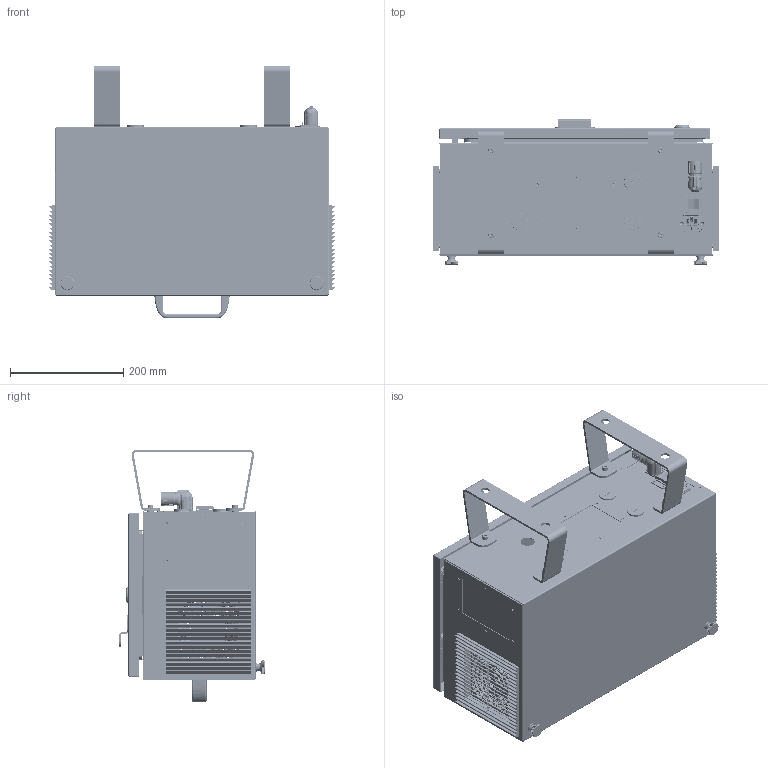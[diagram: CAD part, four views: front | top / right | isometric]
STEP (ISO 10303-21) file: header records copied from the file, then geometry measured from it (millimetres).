
FILE_DESCRIPTION (( 'STEP AP214' ), '1' );
FILE_NAME ('ERB3C600¿ØÖÆ¹ñ.STEP', '2026-07-09T06:17:40', ( '' ), ( '' ), 'SwSTEP 2.0', 'SolidWorks 2020', '' );
FILE_SCHEMA (( 'AUTOMOTIVE_DESIGN' ));
Length unit declared in the file: millimetre
Products named in the file (35): EMC鍼踢; 蝓蟈 HGZ-201-ST; FE-460-2; 藷-C; 躇猾沭 RH-GS-D0818-EMC 1285mm; 脣种; hexagon socket head cap screws gb_GB_FASTENER_SCREWS_HSHCS M8X12-N; 蛌忕坶 MS705 H=25; NA60200382 唑境-C_V02; cross recessed countersunk head screws gb2_GB_CROSS_SCREWS_TYPE10 M3X8-6.35-Z1-N; NA20200164_萇埭脣釱-4301.0501; 眊极-C; 菁釱; M23DK_ZL_; hexagon socket head cap screws gb_GB_FASTENER_SCREWS_HSHCS M6X10-N; NA60200452_蟀諉ん假蚾鍼踢-C-哏ひ; NA60401323_ERB1C眊极; NA21100007_徹薦ん(EMC); NA60200376_境坶鍼踢-C; 枑忒 UPFN26-117-B; ERB3C600眊极-湍蟀諉ん諳_ERB2C2k0; NA20200223_瑤脣釱(譫)_M23XDK8ZL; ERB3C600諷秶嶄; 盓殤-C; hexagon nuts with flange gb_GB_HEXAGON_TYPE12 M8-N; 瑞圮-SanAce_9GV_120x38_RBL; NA20600049_摒倰羲壽 KCD4-201-2; cross recessed countersunk head screws gb2_GB_CROSS_SCREWS_TYPE10 M3X16-14.35-Z1-N; 蟀諉え; knurled thumb screws gb_GB_KNURLED_SCREWS_TYPE1 M8X12-N; 蟻裔 M25X1.5 窪伎 湍蹟譫; hex nuts, style 1-grades ab gb_GB_FASTENER_NUT_SNAB1 M3-N; NA60200421_躇猾啣01
Assembly tree (78 placements, depth 5):
  ERB3C600諷秶嶄
    ERB3C600眊极-湍蟀諉ん諳_ERB2C2k0
      NA60401323_ERB1C眊极
        眊极-C
        盓殤-C  x2
        藷-C
        蝓蟈 HGZ-201-ST
          蟀諉え
          菁釱
          脣种  x2
        蛌忕坶 MS705 H=25
        蟻裔 M25X1.5 窪伎 湍蹟譫  x3
        躇猾沭 RH-GS-D0818-EMC 1285mm
        hexagon socket head cap screws gb_GB_FASTENER_SCREWS_HSHCS M6X10-N  x10
        knurled thumb screws gb_GB_KNURLED_SCREWS_TYPE1 M8X12-N  x2
        hexagon nuts with flange gb_GB_HEXAGON_TYPE12 M8-N  x2
        hexagon socket head cap screws gb_GB_FASTENER_SCREWS_HSHCS M8X12-N  x2
        蝓蟈 HGZ-201-ST
          蟀諉え
          菁釱
          脣种  x2
        枑忒 UPFN26-117-B
      NA21100007_徹薦ん(EMC)
        EMC鍼踢
        FE-460-2
        cross recessed countersunk head screws gb2_GB_CROSS_SCREWS_TYPE10 M3X8-6.35-Z1-N  x4
        cross recessed countersunk head screws gb2_GB_CROSS_SCREWS_TYPE10 M3X16-14.35-Z1-N  x4
        hex nuts, style 1-grades ab gb_GB_FASTENER_NUT_SNAB1 M3-N  x4
      NA60200421_躇猾啣01  x2
      NA21100007_徹薦ん(EMC)
        EMC鍼踢
        FE-460-2
        cross recessed countersunk head screws gb2_GB_CROSS_SCREWS_TYPE10 M3X8-6.35-Z1-N  x4
        cross recessed countersunk head screws gb2_GB_CROSS_SCREWS_TYPE10 M3X16-14.35-Z1-N  x4
        hex nuts, style 1-grades ab gb_GB_FASTENER_NUT_SNAB1 M3-N  x4
      NA60200382 唑境-C_V02
      瑞圮-SanAce_9GV_120x38_RBL
      NA60200452_蟀諉ん假蚾鍼踢-C-哏ひ
      NA20200164_萇埭脣釱-4301.0501
      NA20600049_摒倰羲壽 KCD4-201-2
      NA60200376_境坶鍼踢-C
      NA20200223_瑤脣釱(譫)_M23XDK8ZL
        M23DK_ZL_
Bounding box: 505.4 x 256.9 x 447.12 mm (x, y, z)
Volume: 1772153.3 mm3; surface area: 2029448.2 mm2
Topology: 86 solids, 90 shells, 12192 faces, 32002 edges, 20006 vertices
Faces by surface type: plane 6732, cylinder 3108, bspline 1171, torus 516, cone 508, sphere 157
Entity records: 350588 total; most frequent: CARTESIAN_POINT 127451, ORIENTED_EDGE 43896, DIRECTION 36746, EDGE_CURVE 21948, VERTEX_POINT 13856, LINE 12658, VECTOR 12658, AXIS2_PLACEMENT_3D 12044
